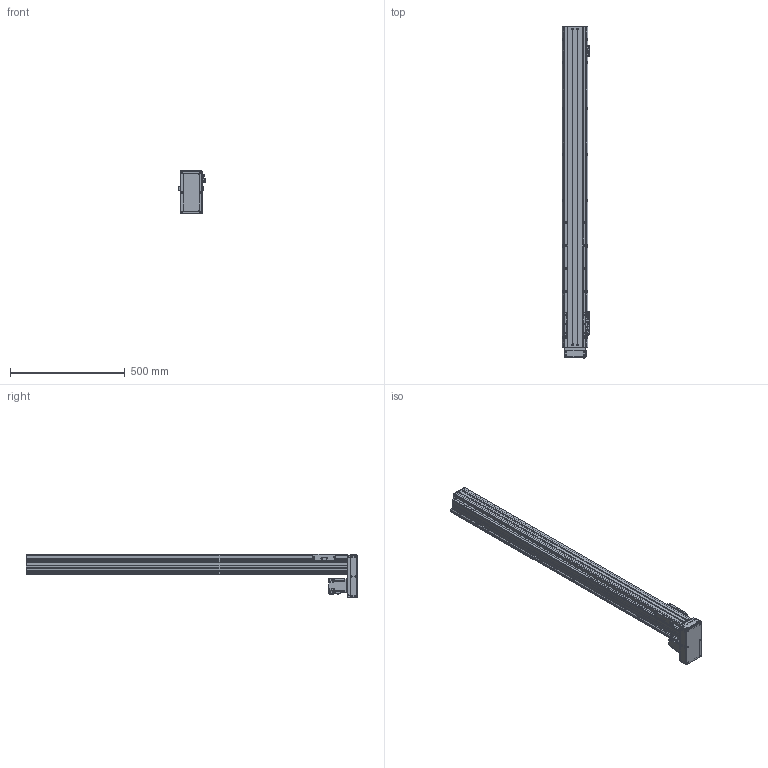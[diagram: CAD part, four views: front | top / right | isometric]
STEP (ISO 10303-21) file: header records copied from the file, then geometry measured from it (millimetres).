
FILE_DESCRIPTION(/* description */ ('MANUFACTURE','CAx-IF Rec.Pracs.---Representation and Presentation of Product Manufacturing Information (PMI)---4.0---2014-10-13'),/* implementation_level */ '2;1');
FILE_NAME(/* name */ '\\192.168.0.160\disk1\HAN SHIN Master\B-설계부문\C-표준\B-2024년\BC02-표준도면\+로봇 개선표준도면\표준 승인도 폴더 - 재작업\3D\HS Type\HS90 - 1RAIL\D - Type\HS90-D20-N1B-1200-R10.stp',/* time_stamp */ '2024-08-26T15:24:00+09:00',/* author */ ('user'),/* organization */ (''),/* preprocessor_version */ 'ST-DEVELOPER v18.1',/* originating_system */ 'Autodesk Inventor 2022',/* authorisation */ 'LIP');
FILE_SCHEMA (('AP242_MANAGED_MODEL_BASED_3D_ENGINEERING_MIM_LF { 1 0 10303 442 1 1 4 }'));
Products named in the file (25): HS90-D20-N1B-0700-R10 (간소화); BASE; UPCOVER; SIDE COVER; HS90 SIDE COVER - 200W 1BLOCK-MIRROR; HR90 FRONT BLOCK; HR90 REAR BLOCK TENSION; S 20R_BLOCK; REAR COVER; STOPPER3; HR120 SENSOR DOG; hg-kr23_; hsr_ftht_A-M6F_grease_nipple_joint; NIPPLE CAP(신규); STOPPER104; MOTOR PLATE-200W(MITSUBISHI); LMKE1520 NUT; HS90 TABLE-SR20W; HS90-D MOTOR PLATE; HS90 D- BELT COVER; HG90DACRYLCOVER001; HG90DACRYLCOVER003; HG90DACRYLCOVER002; SENSOR BRK(EE-SX674A); EE_SX674A
Assembly tree (32 placements, depth 2):
  HS90-D20-N1B-0700-R10 (간소화)
    BASE
    UPCOVER
    SIDE COVER
    HS90 SIDE COVER - 200W 1BLOCK-MIRROR
    HR90 FRONT BLOCK
    HR90 REAR BLOCK TENSION
    S 20R_BLOCK
    REAR COVER
    STOPPER3
    HR120 SENSOR DOG
    SENSOR BRK(EE-SX674A)  x3
    EE_SX674A  x3
    hsr_ftht_A-M6F_grease_nipple_joint  x2
    NIPPLE CAP(신규)  x2
    hg-kr23_
    STOPPER104  x2
    MOTOR PLATE-200W(MITSUBISHI)
    LMKE1520 NUT
    HS90 TABLE-SR20W
    HS90-D MOTOR PLATE
    HS90 D- BELT COVER
    HG90DACRYLCOVER001
    HG90DACRYLCOVER002  x2
    HG90DACRYLCOVER003
Bounding box: 120 x 1447 x 187.5 mm (x, y, z)
Volume: 4093092.9 mm3; surface area: 1473164.3 mm2
Topology: 32 solids, 32 shells, 2023 faces, 5563 edges, 3643 vertices
Faces by surface type: plane 1067, cylinder 742, cone 178, sphere 16, torus 12, bspline 8
Full cylindrical faces by diameter (mm): 2.459 x50, 3 x4, 3.242 x54, 3.4 x22, 3.5 x6, 4.134 x55, 4.5 x41, 4.917 x21, 5 x26, 5.5 x13, 5.6 x10, 5.7 x4, 5.8 x4, 5.9 x8, 6 x12, 6.2 x4, 6.5 x4, 8 x5, 9.5 x13, 14 x1, 15 x2, 17 x1, 20 x1, 25 x2, 28 x1, 32 x2, 33.7 x1, 34 x1, 50 x2
Entity records: 64247 total; most frequent: CARTESIAN_POINT 12808, DIRECTION 10404, ORIENTED_EDGE 9436, EDGE_CURVE 4718, AXIS2_PLACEMENT_3D 3781, VERTEX_POINT 3138, LINE 2842, VECTOR 2842
